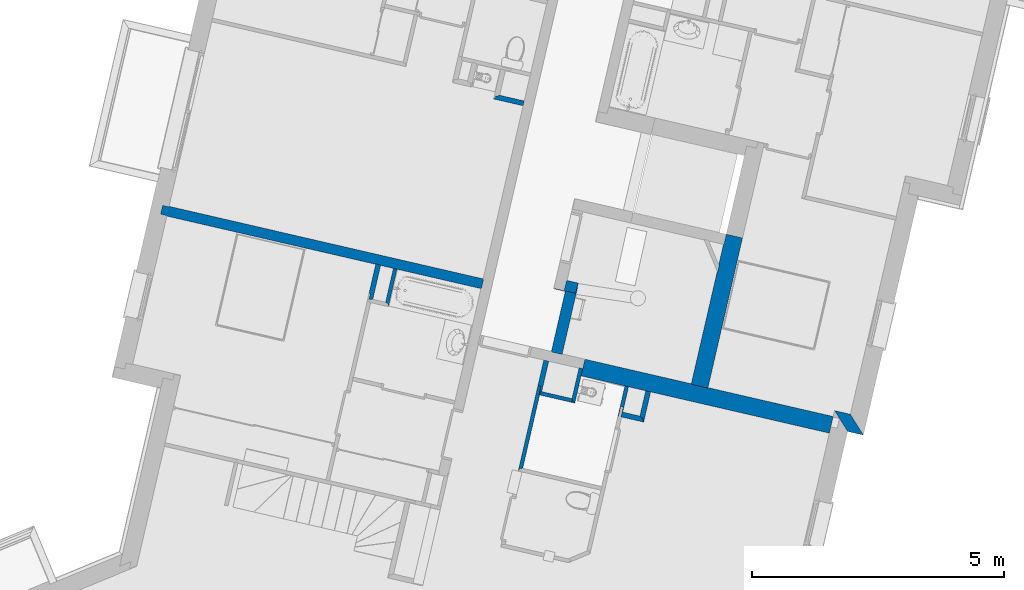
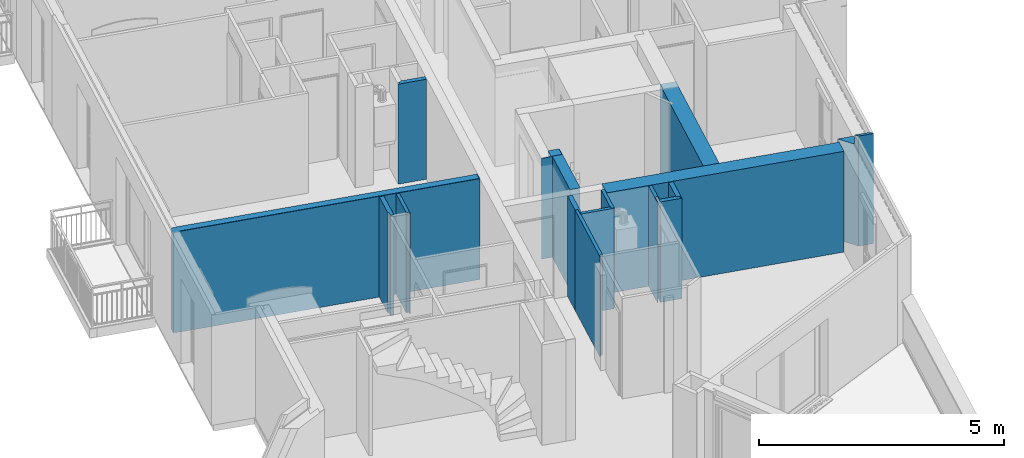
# One storey, part 25 of 62: 16 walls.
"""IFC2X3 building model written with IfcOpenShell, lengths in metres."""

from ifc_helpers import new_model, entity, si_unit, converted_unit, derived_unit, money_unit, direction, frame, origin_with_axes, place, context, subcontext, project, spatial, faceted_brep, material, material_list, type_object, element, save


model = new_model("IFC2X3")

# Units and contexts
model_context = context("Model", 3, precision=1e-05, world=origin_with_axes(), true_north=direction((0.0, 1.0)))
body_context = subcontext(model_context, "Body", "Model", "MODEL_VIEW")
ifc_project = project(units=[si_unit("LENGTHUNIT", "METRE"), si_unit("AREAUNIT", "SQUARE_METRE"), si_unit("VOLUMEUNIT", "CUBIC_METRE"), converted_unit("PLANEANGLEUNIT", "DEGREE", entity("IfcPlaneAngleMeasure", 0.0174532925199), si_unit("PLANEANGLEUNIT", "RADIAN"), dimensions=[0, 0, 0, 0, 0, 0, 0]), si_unit("SOLIDANGLEUNIT", "STERADIAN"), money_unit("EUR"), converted_unit("TIMEUNIT", "Year", entity("IfcTimeMeasure", 31556926.0), si_unit("TIMEUNIT", "SECOND"), dimensions=[0, 0, 1, 0, 0, 0, 0]), si_unit("MASSUNIT", "GRAM", prefix="KILO"), si_unit("THERMODYNAMICTEMPERATUREUNIT", "DEGREE_CELSIUS"), si_unit("LUMINOUSINTENSITYUNIT", "LUMEN"), si_unit("ENERGYUNIT", "JOULE", prefix="MEGA"), derived_unit("THERMALCONDUCTANCEUNIT", [(si_unit("POWERUNIT", "WATT"), 1), (si_unit("LENGTHUNIT", "METRE"), -1), (si_unit("THERMODYNAMICTEMPERATUREUNIT", "KELVIN"), -1)]), derived_unit("SPECIFICHEATCAPACITYUNIT", [(si_unit("ENERGYUNIT", "JOULE"), 1), (si_unit("MASSUNIT", "GRAM", prefix="KILO"), -1), (si_unit("THERMODYNAMICTEMPERATUREUNIT", "KELVIN"), -1)]), derived_unit("MASSDENSITYUNIT", [(si_unit("MASSUNIT", "GRAM", prefix="KILO"), 1), (si_unit("VOLUMEUNIT", "CUBIC_METRE"), -1)])], contexts=[model_context])

# Site, building, storey
site_placement = place(None, origin_with_axes())
site = spatial("IfcSite", under=ifc_project, at=site_placement, Name="Site", CompositionType="ELEMENT")
building_placement = place(site_placement, origin_with_axes())
building = spatial("IfcBuilding", under=site, at=building_placement, Name="Bâtiment", CompositionType="ELEMENT")
storey_placement = place(building_placement, frame((0.0, 0.0, 8.16), z_axis=(0.0, 0.0, 1.0), x_axis=(1.0, 0.0, 0.0)))
storey = spatial("IfcBuildingStorey", under=building, at=storey_placement, Name="R+3", CompositionType="ELEMENT", Elevation=8.16)

# Walls
ifc_material_1 = material(Name="Finition int - Plaque de plâtre")
ifc_material_2 = material(Name="Isolation - Laine de roche")
ifc_material_list_1 = material_list([ifc_material_1, ifc_material_2, ifc_material_1])
wall_type_1 = type_object("IfcWallType", Name="3 - Cloison 72mm Placostil 74", PredefinedType="USERDEFINED")
wall_1_placement = place(storey_placement, frame((-11.5534939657, -9.58924458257, 0.0), z_axis=(0.0, 0.0, 1.0), x_axis=(-0.224876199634, -0.974387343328, 0.0)))
element("IfcWall", 1, at=wall_1_placement, inside=storey, type_object=wall_type_1, material=ifc_material_list_1, Name="Cloison Placostil 72/48", ObjectType="PARTITIONING", context=body_context, shape_type="Brep", body=[
    faceted_brep([(1.49496351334, 0.074, 0.0), (0.0, 0.074, 0.0), (0.0, 0.074, 2.5), (1.49496351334, 0.074, 2.5), (1.49496351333, 0.061, 0.0), (0.0, 0.061, 0.0), (0.0, 0.061, 2.5), (1.49496351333, 0.061, 2.5)], [[[0, 1, 2, 3]], [[4, 5, 1, 0]], [[5, 6, 2, 1]], [[3, 2, 6, 7]], [[3, 7, 4, 0]], [[7, 6, 5, 4]]]),
    faceted_brep([(1.50796351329, 0.013, 0.0), (-0.174000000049, 0.013, 0.0), (-0.174000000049, 0.061, 0.0), (1.50796351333, 0.061, 0.0), (1.50796351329, 0.013, 2.5), (-0.174000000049, 0.013, 2.5), (-0.174000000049, 0.061, 2.5), (1.50796351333, 0.061, 2.5)], [[[0, 1, 2, 3]], [[4, 5, 1, 0]], [[1, 5, 6, 2]], [[3, 2, 6, 7]], [[7, 4, 0, 3]], [[7, 6, 5, 4]]]),
    faceted_brep([(1.55596351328, 0.0, 0.0), (-0.174000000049, 0.0, 0.0), (-0.174000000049, 0.013, 0.0), (1.55596351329, 0.013, 0.0), (1.55596351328, 0.0, 2.5), (-0.174000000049, 0.0, 2.5), (-0.174000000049, 0.013, 2.5), (1.55596351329, 0.013, 2.5)], [[[0, 1, 2, 3]], [[4, 5, 1, 0]], [[1, 5, 6, 2]], [[3, 2, 6, 7]], [[7, 4, 0, 3]], [[7, 6, 5, 4]]]),
])
ifc_material_3 = material(Name="Finition int - Enduit plâtre")
ifc_material_4 = material(Name="Béton")
ifc_material_list_2 = material_list([ifc_material_3, ifc_material_4, ifc_material_3])
wall_type_2 = type_object("IfcWallType", Name="2 - Murs Béton 18 + Enduit 2 Faces 200", PredefinedType="USERDEFINED")
wall_2_placement = place(storey_placement, frame((-19.2167882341, -5.96817026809, 0.0), z_axis=(0.0, 0.0, 1.0), x_axis=(0.97438734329, -0.224876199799, 0.0)))
element("IfcWall", 2, at=wall_2_placement, inside=storey, type_object=wall_type_2, material=ifc_material_list_2, Name="M_Ext-008", ObjectType="SOLIDWALL", context=body_context, shape_type="Brep", body=[
    faceted_brep([(0.344999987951, 0.19, 2.49), (6.7453103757, 0.19, 2.49), (6.7453103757, 0.19, 0.0), (0.344999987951, 0.19, 0.0), (6.7453103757, 0.18, 2.49), (0.344999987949, 0.18, 2.49), (6.7453103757, 0.18, 0.0), (0.344999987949, 0.18, 0.0)], [[[0, 1, 2, 3]], [[4, 1, 0, 5]], [[1, 4, 6, 2]], [[6, 7, 3, 2]], [[5, 0, 3, 7]], [[4, 5, 7, 6]]]),
    faceted_brep([(0.214999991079, 0.18, 2.49), (6.7453103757, 0.18, 2.49), (6.74531037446, 0.18, 2.50999999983), (6.7553103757, 0.18, 2.51), (6.7553103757, 0.18, 0.0), (0.214999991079, 0.18, 0.0), (0.214999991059, -1.22377260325e-07, 2.49), (6.74531037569, 6.00846323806e-08, 2.49), (6.74531037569, 6.00846323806e-08, 2.50999999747), (6.75531037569, 0.0, 2.51), (6.75531037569, 0.0, 0.0), (0.214999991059, 0.0, 0.0)], [[[0, 1, 2, 3, 4, 5]], [[1, 0, 6, 7]], [[8, 2, 1, 7]], [[2, 8, 9, 3]], [[10, 4, 3, 9]], [[10, 11, 5, 4]], [[6, 0, 5, 11]], [[7, 6, 11, 10, 9, 8]]]),
    faceted_brep([(4.60131037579, 0.0, 0.0), (0.34499998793, 0.0, 0.0), (0.34499998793, 0.0, 2.51), (6.74531037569, 0.0, 2.51), (6.74531037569, 0.0, 0.0), (4.70131037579, 0.0, 0.0), (4.70131037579, 0.0, 2.5), (4.60131037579, 0.0, 2.5), (4.60131037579, -0.01, 0.0), (0.344999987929, -0.01, 0.0), (0.344999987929, -0.01, 2.51), (6.74531037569, -0.01, 2.51), (6.74531037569, -0.01, 0.0), (4.70131037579, -0.01, 0.0), (4.70131037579, -0.01, 2.5), (4.60131037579, -0.01, 2.5)], [[[0, 1, 2, 3, 4, 5, 6, 7]], [[8, 9, 1, 0]], [[9, 10, 2, 1]], [[3, 2, 10, 11]], [[12, 4, 3, 11]], [[12, 13, 5, 4]], [[14, 6, 5, 13]], [[7, 6, 14, 15]], [[8, 0, 7, 15]], [[11, 10, 9, 8, 15, 14, 13, 12]]]),
])
wall_type_3 = type_object("IfcWallType", Name="2 - Murs Béton 20 + Enduit 2 Faces  220", PredefinedType="USERDEFINED")
wall_3_placement = place(storey_placement, frame((-10.9531693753, -7.53877855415, 0.0), z_axis=(0.0, 0.0, 1.0), x_axis=(-0.22487619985, -0.974387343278, 0.0)))
element("IfcWall", 3, at=wall_3_placement, inside=storey, type_object=wall_type_3, material=ifc_material_list_2, Name="M_Ext-009", ObjectType="SOLIDWALL", context=body_context, shape_type="Brep", body=[
    faceted_brep([(1.23894685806, 0.205, 0.0), (1.23894685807, 0.195, 0.0), (-0.195, 0.195, 0.0), (-0.195, 0.205, 0.0), (1.23894685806, 0.205, 2.51), (1.23894685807, 0.195, 2.51), (-0.195, 0.195, 2.51), (-0.195, 0.205, 2.51)], [[[0, 1, 2, 3]], [[1, 0, 4, 5]], [[1, 5, 6, 2]], [[7, 3, 2, 6]], [[4, 0, 3, 7]], [[5, 4, 7, 6]]]),
    faceted_brep([(1.24894685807, 0.195, 0.0), (1.24894685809, -0.005, 0.0), (0.005, -0.005, 0.0), (0.005, 0.195, 0.0), (1.24894685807, 0.195, 2.51), (1.24894685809, -0.005, 2.51), (0.005, -0.005, 2.51), (0.005, 0.195, 2.51)], [[[0, 1, 2, 3]], [[1, 0, 4, 5]], [[1, 5, 6, 2]], [[7, 3, 2, 6]], [[4, 0, 3, 7]], [[5, 4, 7, 6]]]),
    faceted_brep([(1.23894685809, -0.005, 0.0), (1.23894685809, -0.015, 0.0), (0.015, -0.015, 0.0), (0.015, -0.005, 0.0), (1.23894685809, -0.005, 2.51), (1.23894685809, -0.015, 2.51), (0.015, -0.015, 2.51), (0.015, -0.005, 2.51)], [[[0, 1, 2, 3]], [[1, 0, 4, 5]], [[1, 5, 6, 2]], [[7, 3, 2, 6]], [[4, 0, 3, 7]], [[5, 4, 7, 6]]]),
])
wall_4_placement = place(storey_placement, frame((-11.1820019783, -7.48596690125, 0.0), z_axis=(0.0, 0.0, 1.0), x_axis=(0.974387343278, -0.22487619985, 0.0)))
element("IfcWall", 4, at=wall_4_placement, inside=storey, type_object=wall_type_3, material=ifc_material_list_2, Name="M_Ext-009", ObjectType="SOLIDWALL", context=body_context, shape_type="Brep", body=[
    faceted_brep([(0.439847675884, 0.205, 0.0), (0.439847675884, 0.195, 0.0), (0.205000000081, 0.195, 0.0), (0.205000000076, 0.205, 0.0), (0.439847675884, 0.205, 2.51), (0.439847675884, 0.195, 2.51), (0.205000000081, 0.195, 2.51), (0.205000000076, 0.205, 2.51)], [[[0, 1, 2, 3]], [[1, 0, 4, 5]], [[1, 5, 6, 2]], [[7, 3, 2, 6]], [[4, 0, 3, 7]], [[5, 4, 7, 6]]]),
    faceted_brep([(0.429847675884, 0.195, 0.0), (0.429847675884, -0.005, 0.0), (0.19500000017, -0.005, 0.0), (0.195000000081, 0.195, 0.0), (0.429847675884, 0.195, 2.51), (0.429847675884, -0.005, 2.51), (0.19500000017, -0.005, 2.51), (0.195000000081, 0.195, 2.51)], [[[0, 1, 2, 3]], [[1, 0, 4, 5]], [[1, 5, 6, 2]], [[7, 3, 2, 6]], [[4, 0, 3, 7]], [[5, 4, 7, 6]]]),
    faceted_brep([(0.229847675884, -0.005, 0.0), (0.229847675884, -0.015, 0.0), (-0.0049999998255, -0.015, 0.0), (-0.00499999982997, -0.005, 0.0), (0.229847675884, -0.005, 2.51), (0.229847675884, -0.015, 2.51), (-0.0049999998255, -0.015, 2.51), (-0.00499999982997, -0.005, 2.51)], [[[0, 1, 2, 3]], [[1, 0, 4, 5]], [[1, 5, 6, 2]], [[7, 3, 2, 6]], [[4, 0, 3, 7]], [[5, 4, 7, 6]]]),
])
wall_type_4 = type_object("IfcWallType", Name="3 - Cloison Gaine Technique 72mm 74", PredefinedType="USERDEFINED")
wall_5_placement = place(storey_placement, frame((-10.7830923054, -9.76704348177, 0.0), z_axis=(0.0, 0.0, 1.0), x_axis=(-0.974387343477, 0.224876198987, 0.0)))
element("IfcWall", 5, at=wall_5_placement, inside=storey, type_object=wall_type_4, material=ifc_material_list_1, Name="Cloison Placostil 72/48", ObjectType="PARTITIONING", context=body_context, shape_type="Brep", body=[
    faceted_brep([(0.0129999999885, -0.013, 0.0), (0.72965236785, -0.013, 0.0), (0.72965236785, -0.013, 2.5), (0.0129999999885, -0.013, 2.5), (0.013, 0.0, 0.0), (0.729652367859, 0.0, 0.0), (0.729652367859, 0.0, 2.5), (0.013, 0.0, 2.5)], [[[0, 1, 2, 3]], [[4, 5, 1, 0]], [[5, 6, 2, 1]], [[3, 2, 6, 7]], [[4, 0, 3, 7]], [[7, 6, 5, 4]]]),
    faceted_brep([(0.060999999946, -0.061, 2.5), (0.716652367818, -0.061, 2.5), (0.71665236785, -0.013, 2.5), (0.0609999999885, -0.013, 2.5), (0.060999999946, -0.061, 0.0), (0.716652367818, -0.061, 0.0), (0.71665236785, -0.013, 0.0), (0.0609999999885, -0.013, 0.0)], [[[0, 1, 2, 3]], [[4, 5, 1, 0]], [[6, 2, 1, 5]], [[3, 2, 6, 7]], [[7, 4, 0, 3]], [[7, 6, 5, 4]]]),
    faceted_brep([(0.69065236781, -0.074, 2.5), (0.690652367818, -0.061, 2.5), (0.073999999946, -0.061, 2.5), (0.0739999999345, -0.074, 2.5), (0.69065236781, -0.074, 0.0), (0.690652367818, -0.061, 0.0), (0.073999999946, -0.061, 0.0), (0.0739999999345, -0.074, 0.0)], [[[0, 1, 2, 3]], [[1, 0, 4, 5]], [[1, 5, 6, 2]], [[7, 3, 2, 6]], [[4, 0, 3, 7]], [[5, 4, 7, 6]]]),
])
wall_6_placement = place(storey_placement, frame((-10.5843017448, -8.90568507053, 0.0), z_axis=(0.0, 0.0, 1.0), x_axis=(-0.224876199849, -0.974387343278, 0.0)))
element("IfcWall", 6, at=wall_6_placement, inside=storey, type_object=wall_type_4, material=ifc_material_list_1, Name="Cloison Placostil 72/48", ObjectType="PARTITIONING", context=body_context, shape_type="Brep", body=[
    faceted_brep([(0.88399999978, 0.0, 0.0), (0.179999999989, 0.0, 0.0), (0.179999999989, 0.0, 2.5), (0.88399999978, 0.0, 2.5), (0.883999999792, -0.013, 0.0), (0.17999999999, -0.013, 0.0), (0.17999999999, -0.013, 2.5), (0.883999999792, -0.013, 2.5)], [[[0, 1, 2, 3]], [[4, 5, 1, 0]], [[5, 6, 2, 1]], [[3, 2, 6, 7]], [[4, 0, 3, 7]], [[7, 6, 5, 4]]]),
    faceted_brep([(0.870999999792, -0.013, 0.0), (0.17999999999, -0.013, 0.0), (0.17999999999, -0.013, 2.5), (0.870999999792, -0.013, 2.5), (0.870999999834, -0.061, 0.0), (0.179999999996, -0.061, 0.0), (0.179999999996, -0.061, 2.5), (0.870999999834, -0.061, 2.5)], [[[0, 1, 2, 3]], [[4, 5, 1, 0]], [[5, 6, 2, 1]], [[3, 2, 6, 7]], [[4, 0, 3, 7]], [[7, 6, 5, 4]]]),
    faceted_brep([(0.822999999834, -0.061, 0.0), (0.179999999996, -0.061, 0.0), (0.179999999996, -0.061, 2.5), (0.822999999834, -0.061, 2.5), (0.822999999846, -0.074, 0.0), (0.179999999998, -0.074, 0.0), (0.179999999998, -0.074, 2.5), (0.822999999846, -0.074, 2.5)], [[[0, 1, 2, 3]], [[4, 5, 1, 0]], [[5, 6, 2, 1]], [[3, 2, 6, 7]], [[4, 0, 3, 7]], [[7, 6, 5, 4]]]),
])
wall_7_placement = place(storey_placement, frame((-9.71496521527, -9.44499122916, 0.0), z_axis=(0.0, 0.0, 1.0), x_axis=(-0.224876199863, -0.974387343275, 0.0)))
element("IfcWall", 7, at=wall_7_placement, inside=storey, type_object=wall_type_4, material=ifc_material_list_1, Name="Cloison Placostil 72/48", ObjectType="PARTITIONING", context=body_context, shape_type="Brep", body=[
    faceted_brep([(0.0, -0.013, 2.5), (0.528000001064, -0.013, 2.5), (0.528000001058, 0.0, 2.5), (0.0, 0.0, 2.5), (0.0, -0.013, 0.0), (0.528000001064, -0.013, 0.0), (0.528000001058, 0.0, 0.0), (0.0, 0.0, 0.0)], [[[0, 1, 2, 3]], [[4, 5, 1, 0]], [[6, 2, 1, 5]], [[3, 2, 6, 7]], [[7, 4, 0, 3]], [[7, 6, 5, 4]]]),
    faceted_brep([(0.0, -0.061, 2.5), (0.415000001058, -0.061, 2.5), (0.415000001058, -0.013, 2.5), (0.0, -0.013, 2.5), (0.0, -0.061, 0.0), (0.415000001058, -0.061, 0.0), (0.415000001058, -0.013, 0.0), (0.0, -0.013, 0.0)], [[[0, 1, 2, 3]], [[4, 5, 1, 0]], [[5, 6, 2, 1]], [[3, 2, 6, 7]], [[7, 4, 0, 3]], [[7, 6, 5, 4]]]),
    faceted_brep([(0.0, -0.074, 2.5), (0.602000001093, -0.074, 2.5), (0.602000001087, -0.061, 2.5), (0.0, -0.061, 2.5), (0.0, -0.074, 0.0), (0.602000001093, -0.074, 0.0), (0.602000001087, -0.061, 0.0), (0.0, -0.061, 0.0)], [[[0, 1, 2, 3]], [[4, 5, 1, 0]], [[6, 2, 1, 5]], [[3, 2, 6, 7]], [[7, 4, 0, 3]], [[7, 6, 5, 4]]]),
])
wall_8_placement = place(storey_placement, frame((-14.4842748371, -7.85369314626, 0.0), z_axis=(0.0, 0.0, 1.0), x_axis=(0.224876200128, 0.974387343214, 0.0)))
element("IfcWall", 8, at=wall_8_placement, inside=storey, type_object=wall_type_4, material=ifc_material_list_1, Name="Cloison Placostil 72/48", ObjectType="PARTITIONING", context=body_context, shape_type="Brep", body=[
    faceted_brep([(0.0739999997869, 0.074, 0.0), (0.763000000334, 0.074, 0.0), (0.763000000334, 0.061, 0.0), (0.0739999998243, 0.061, 0.0), (0.0739999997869, 0.074, 2.5), (0.763000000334, 0.074, 2.5), (0.763000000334, 0.061, 2.5), (0.0739999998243, 0.061, 2.5)], [[[0, 1, 2, 3]], [[4, 5, 1, 0]], [[2, 1, 5, 6]], [[3, 2, 6, 7]], [[4, 0, 3, 7]], [[7, 6, 5, 4]]]),
    faceted_brep([(0.0609999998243, 0.061, 0.0), (0.763000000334, 0.061, 0.0), (0.763000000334, 0.013, 0.0), (0.0609999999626, 0.013, 0.0), (0.0609999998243, 0.061, 2.5), (0.763000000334, 0.061, 2.5), (0.763000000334, 0.013, 2.5), (0.0609999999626, 0.013, 2.5)], [[[0, 1, 2, 3]], [[4, 5, 1, 0]], [[2, 1, 5, 6]], [[3, 2, 6, 7]], [[4, 0, 3, 7]], [[7, 6, 5, 4]]]),
    faceted_brep([(0.0129999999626, 0.013, 0.0), (0.763000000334, 0.013, 0.0), (0.763000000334, 0.0, 0.0), (0.013, 0.0, 0.0), (0.0129999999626, 0.013, 2.5), (0.763000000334, 0.013, 2.5), (0.763000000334, 0.0, 2.5), (0.013, 0.0, 2.5)], [[[0, 1, 2, 3]], [[4, 5, 1, 0]], [[2, 1, 5, 6]], [[3, 2, 6, 7]], [[4, 0, 3, 7]], [[7, 6, 5, 4]]]),
])
ifc_material_list_3 = material_list([ifc_material_1, ifc_material_1, ifc_material_2, ifc_material_1, ifc_material_1])
wall_type_5 = type_object("IfcWallType", Name="3 - Cloison Gaine Technique 98mm 100", PredefinedType="USERDEFINED")
wall_9_placement = place(storey_placement, frame((-14.7333296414, -7.00289545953, 0.0), z_axis=(0.0, 0.0, 1.0), x_axis=(-0.22487619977, -0.974387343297, 0.0)))
element("IfcWall", 9, at=wall_9_placement, inside=storey, type_object=wall_type_5, material=ifc_material_list_3, Name="Cloison 98 isolée", ObjectType="PARTITIONING", context=body_context, shape_type="Brep", body=[
    faceted_brep([(0.699000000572, 0.1, 0.0), (0.699000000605, 0.087, 0.0), (0.0, 0.087, 0.0), (0.0, 0.1, 0.0), (0.699000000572, 0.1, 2.5), (0.699000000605, 0.087, 2.5), (0.0, 0.087, 2.5), (0.0, 0.1, 2.5)], [[[0, 1, 2, 3]], [[1, 0, 4, 5]], [[1, 5, 6, 2]], [[7, 3, 2, 6]], [[4, 0, 3, 7]], [[5, 4, 7, 6]]]),
    faceted_brep([(0.712000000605, 0.087, 0.0), (0.712000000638, 0.074, 0.0), (0.0, 0.074, 0.0), (0.0, 0.087, 0.0), (0.712000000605, 0.087, 2.5), (0.712000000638, 0.074, 2.5), (0.0, 0.074, 2.5), (0.0, 0.087, 2.5)], [[[0, 1, 2, 3]], [[1, 0, 4, 5]], [[1, 5, 6, 2]], [[7, 3, 2, 6]], [[4, 0, 3, 7]], [[5, 4, 7, 6]]]),
    faceted_brep([(0.0, 0.074, 0.0), (0.712000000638, 0.074, 0.0), (0.712000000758, 0.026, 0.0), (0.0, 0.026, 0.0), (0.0, 0.074, 2.5), (0.712000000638, 0.074, 2.5), (0.712000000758, 0.026, 2.5), (0.0, 0.026, 2.5)], [[[0, 1, 2, 3]], [[4, 5, 1, 0]], [[6, 2, 1, 5]], [[3, 2, 6, 7]], [[7, 4, 0, 3]], [[7, 6, 5, 4]]]),
    faceted_brep([(0.0, 0.013, 2.5), (0.599000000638, 0.013, 2.5), (0.599000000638, 0.026, 2.5), (0.0, 0.026, 2.5), (0.0, 0.013, 0.0), (0.599000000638, 0.013, 0.0), (0.599000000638, 0.026, 0.0), (0.0, 0.026, 0.0)], [[[0, 1, 2, 3]], [[4, 5, 1, 0]], [[5, 6, 2, 1]], [[3, 2, 6, 7]], [[0, 3, 7, 4]], [[7, 6, 5, 4]]]),
    faceted_brep([(0.0, 0.0, 2.5), (0.599000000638, 0.0, 2.5), (0.599000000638, 0.013, 2.5), (0.0, 0.013, 2.5), (0.0, 0.0, 0.0), (0.599000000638, 0.0, 0.0), (0.599000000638, 0.013, 0.0), (0.0, 0.013, 0.0)], [[[0, 1, 2, 3]], [[4, 5, 1, 0]], [[5, 6, 2, 1]], [[3, 2, 6, 7]], [[0, 3, 7, 4]], [[7, 6, 5, 4]]]),
])
wall_10_placement = place(storey_placement, frame((-9.41478977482, -10.1454337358, 0.0), z_axis=(0.0, 0.0, 1.0), x_axis=(-0.974387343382, 0.224876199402, 0.0)))
element("IfcWall", 10, at=wall_10_placement, inside=storey, type_object=wall_type_5, material=ifc_material_list_3, Name="Cloison 98 isolée", ObjectType="PARTITIONING", context=body_context, shape_type="Brep", body=[
    faceted_brep([(0.523999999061, 0.0, 2.5), (0.510999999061, 0.0, 2.5), (0.510999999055, -0.013, 2.5), (0.523999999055, -0.013, 2.5), (0.523999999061, 0.0, 0.0), (0.510999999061, 0.0, 0.0), (0.510999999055, -0.013, 0.0), (0.523999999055, -0.013, 0.0)], [[[0, 1, 2, 3]], [[4, 5, 1, 0]], [[5, 6, 2, 1]], [[3, 2, 6, 7]], [[4, 0, 3, 7]], [[7, 6, 5, 4]]]),
    faceted_brep([(0.0, -0.013, 0.0), (0.462999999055, -0.013, 0.0), (0.462999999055, -0.013, 2.5), (0.0, -0.013, 2.5), (0.0, 0.0, 0.0), (0.462999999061, 0.0, 0.0), (0.462999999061, 0.0, 2.5), (0.0, 0.0, 2.5)], [[[0, 1, 2, 3]], [[4, 5, 1, 0]], [[5, 6, 2, 1]], [[3, 2, 6, 7]], [[4, 0, 3, 7]], [[7, 6, 5, 4]]]),
    faceted_brep([(0.0129999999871, -0.026, 0.0), (0.462999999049, -0.026, 0.0), (0.462999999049, -0.026, 2.5), (0.0129999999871, -0.026, 2.5), (0.0129999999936, -0.013, 0.0), (0.462999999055, -0.013, 0.0), (0.462999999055, -0.013, 2.5), (0.0129999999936, -0.013, 2.5)], [[[0, 1, 2, 3]], [[4, 5, 1, 0]], [[5, 6, 2, 1]], [[3, 2, 6, 7]], [[4, 0, 3, 7]], [[7, 6, 5, 4]]]),
    faceted_brep([(0.0259999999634, -0.074, 2.5), (0.462999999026, -0.074, 2.5), (0.462999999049, -0.026, 2.5), (0.0259999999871, -0.026, 2.5), (0.0259999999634, -0.074, 0.0), (0.462999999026, -0.074, 0.0), (0.462999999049, -0.026, 0.0), (0.0259999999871, -0.026, 0.0)], [[[0, 1, 2, 3]], [[4, 5, 1, 0]], [[6, 2, 1, 5]], [[3, 2, 6, 7]], [[7, 4, 0, 3]], [[7, 6, 5, 4]]]),
    faceted_brep([(0.073999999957, -0.087, 2.5), (0.46299999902, -0.087, 2.5), (0.462999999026, -0.074, 2.5), (0.0739999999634, -0.074, 2.5), (0.073999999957, -0.087, 0.0), (0.46299999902, -0.087, 0.0), (0.462999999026, -0.074, 0.0), (0.0739999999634, -0.074, 0.0)], [[[0, 1, 2, 3]], [[4, 5, 1, 0]], [[6, 2, 1, 5]], [[3, 2, 6, 7]], [[7, 4, 0, 3]], [[7, 6, 5, 4]]]),
    faceted_brep([(0.0869999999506, -0.1, 2.5), (0.449999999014, -0.1, 2.5), (0.44999999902, -0.087, 2.5), (0.086999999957, -0.087, 2.5), (0.0869999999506, -0.1, 0.0), (0.449999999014, -0.1, 0.0), (0.44999999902, -0.087, 0.0), (0.086999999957, -0.087, 0.0)], [[[0, 1, 2, 3]], [[4, 5, 1, 0]], [[6, 2, 1, 5]], [[3, 2, 6, 7]], [[7, 4, 0, 3]], [[7, 6, 5, 4]]]),
])
wall_11_placement = place(storey_placement, frame((-11.3974298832, -8.91301976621, 0.0), z_axis=(0.0, 0.0, 1.0), x_axis=(-0.224876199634, -0.974387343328, 0.0)))
element("IfcWall", 11, at=wall_11_placement, inside=storey, type_object=wall_type_5, material=ifc_material_list_3, Name="Cloison 98 isolée", ObjectType="PARTITIONING", context=body_context, shape_type="Brep", body=[
    faceted_brep([(0.0, 0.1, 0.0), (0.633000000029, 0.1, 0.0), (0.633000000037, 0.087, 0.0), (0.0, 0.087, 0.0), (0.0, 0.1, 2.5), (0.633000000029, 0.1, 2.5), (0.633000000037, 0.087, 2.5), (0.0, 0.087, 2.5)], [[[0, 1, 2, 3]], [[4, 5, 1, 0]], [[6, 2, 1, 5]], [[3, 2, 6, 7]], [[7, 4, 0, 3]], [[7, 6, 5, 4]]]),
    faceted_brep([(0.0, 0.087, 0.0), (0.633000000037, 0.087, 0.0), (0.633000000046, 0.074, 0.0), (0.0, 0.074, 0.0), (0.0, 0.087, 2.5), (0.633000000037, 0.087, 2.5), (0.633000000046, 0.074, 2.5), (0.0, 0.074, 2.5)], [[[0, 1, 2, 3]], [[4, 5, 1, 0]], [[6, 2, 1, 5]], [[3, 2, 6, 7]], [[7, 4, 0, 3]], [[7, 6, 5, 4]]]),
    faceted_brep([(0.520000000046, 0.026, 2.5), (0.520000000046, 0.061, 2.5), (0.681000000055, 0.061, 2.5), (0.681000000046, 0.074, 2.5), (0.0, 0.074, 2.5), (0.0, 0.026, 2.5), (0.520000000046, 0.061, 0.0), (0.520000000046, 0.026, 0.0), (0.681000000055, 0.061, 0.0), (0.681000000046, 0.074, 0.0), (0.0, 0.074, 0.0), (0.0, 0.026, 0.0)], [[[0, 1, 2, 3, 4, 5]], [[6, 1, 0, 7]], [[8, 2, 1, 6]], [[3, 2, 8, 9]], [[4, 3, 9, 10]], [[5, 4, 10, 11]], [[11, 7, 0, 5]], [[8, 6, 7, 11, 10, 9]]]),
    faceted_brep([(0.0, 0.013, 2.5), (0.520000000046, 0.013, 2.5), (0.520000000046, 0.026, 2.5), (0.0, 0.026, 2.5), (0.0, 0.013, 0.0), (0.520000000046, 0.013, 0.0), (0.520000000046, 0.026, 0.0), (0.0, 0.026, 0.0)], [[[0, 1, 2, 3]], [[4, 5, 1, 0]], [[5, 6, 2, 1]], [[3, 2, 6, 7]], [[0, 3, 7, 4]], [[7, 6, 5, 4]]]),
    faceted_brep([(0.0, 0.0, 2.5), (0.520000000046, 0.0, 2.5), (0.520000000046, 0.013, 2.5), (0.0, 0.013, 2.5), (0.0, 0.0, 0.0), (0.520000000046, 0.0, 0.0), (0.520000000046, 0.013, 0.0), (0.0, 0.013, 0.0)], [[[0, 1, 2, 3]], [[4, 5, 1, 0]], [[5, 6, 2, 1]], [[3, 2, 6, 7]], [[0, 3, 7, 4]], [[7, 6, 5, 4]]]),
])
wall_12_placement = place(storey_placement, frame((-9.41478977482, -10.1454337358, 0.0), z_axis=(0.0, 0.0, 1.0), x_axis=(0.224876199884, 0.974387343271, 0.0)))
element("IfcWall", 12, at=wall_12_placement, inside=storey, type_object=wall_type_5, material=ifc_material_list_3, Name="Cloison 98 isolée", ObjectType="PARTITIONING", context=body_context, shape_type="Brep", body=[
    faceted_brep([(0.0999999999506, 0.1, 0.0), (0.615000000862, 0.1, 0.0), (0.615000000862, 0.087, 0.0), (0.099999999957, 0.087, 0.0), (0.0999999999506, 0.1, 2.5), (0.615000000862, 0.1, 2.5), (0.615000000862, 0.087, 2.5), (0.099999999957, 0.087, 2.5)], [[[0, 1, 2, 3]], [[4, 5, 1, 0]], [[2, 1, 5, 6]], [[3, 2, 6, 7]], [[4, 0, 3, 7]], [[7, 6, 5, 4]]]),
    faceted_brep([(0.086999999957, 0.087, 0.0), (0.615000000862, 0.087, 0.0), (0.615000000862, 0.074, 0.0), (0.0869999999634, 0.074, 0.0), (0.086999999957, 0.087, 2.5), (0.615000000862, 0.087, 2.5), (0.615000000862, 0.074, 2.5), (0.0869999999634, 0.074, 2.5)], [[[0, 1, 2, 3]], [[4, 5, 1, 0]], [[2, 1, 5, 6]], [[3, 2, 6, 7]], [[4, 0, 3, 7]], [[7, 6, 5, 4]]]),
    faceted_brep([(0.0739999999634, 0.074, 0.0), (0.615000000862, 0.074, 0.0), (0.615000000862, 0.026, 0.0), (0.0739999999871, 0.026, 0.0), (0.0739999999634, 0.074, 2.5), (0.615000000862, 0.074, 2.5), (0.615000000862, 0.026, 2.5), (0.0739999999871, 0.026, 2.5)], [[[0, 1, 2, 3]], [[4, 5, 1, 0]], [[2, 1, 5, 6]], [[3, 2, 6, 7]], [[4, 0, 3, 7]], [[7, 6, 5, 4]]]),
    faceted_brep([(0.0259999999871, 0.026, 0.0), (0.615000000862, 0.026, 0.0), (0.615000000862, 0.013, 0.0), (0.0259999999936, 0.013, 0.0), (0.0259999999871, 0.026, 2.5), (0.615000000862, 0.026, 2.5), (0.615000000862, 0.013, 2.5), (0.0259999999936, 0.013, 2.5)], [[[0, 1, 2, 3]], [[4, 5, 1, 0]], [[2, 1, 5, 6]], [[3, 2, 6, 7]], [[4, 0, 3, 7]], [[7, 6, 5, 4]]]),
    faceted_brep([(0.0129999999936, 0.013, 0.0), (0.615000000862, 0.013, 0.0), (0.615000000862, 0.0, 0.0), (0.013, 0.0, 0.0), (0.0129999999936, 0.013, 2.5), (0.615000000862, 0.013, 2.5), (0.615000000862, 0.0, 2.5), (0.013, 0.0, 2.5)], [[[0, 1, 2, 3]], [[4, 5, 1, 0]], [[2, 1, 5, 6]], [[3, 2, 6, 7]], [[4, 0, 3, 7]], [[7, 6, 5, 4]]]),
])
wall_13_placement = place(storey_placement, frame((-11.808762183, -3.86489545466, 0.0), z_axis=(0.0, 0.0, 1.0), x_axis=(-0.974387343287, 0.224876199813, 0.0)))
element("IfcWall", 13, at=wall_13_placement, inside=storey, type_object=wall_type_5, material=ifc_material_list_3, Name="Cloison 98 isolée", ObjectType="PARTITIONING", context=body_context, shape_type="Brep", body=[
    faceted_brep([(0.599999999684, -0.013, 2.49), (0.0, -0.013, 2.49), (0.0, -0.013, 0.0), (0.599999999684, -0.013, 0.0), (0.0, 0.0, 2.49), (0.599999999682, 0.0, 2.49), (0.0, 0.0, 0.0), (0.599999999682, 0.0, 0.0)], [[[0, 1, 2, 3]], [[4, 1, 0, 5]], [[1, 4, 6, 2]], [[7, 3, 2, 6]], [[5, 0, 3, 7]], [[4, 5, 7, 6]]]),
    faceted_brep([(0.586999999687, -0.026, 2.49), (0.0, -0.026, 2.49), (0.0, -0.026, 0.0), (0.586999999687, -0.026, 0.0), (0.0, -0.013, 2.49), (0.586999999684, -0.013, 2.49), (0.0, -0.013, 0.0), (0.586999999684, -0.013, 0.0)], [[[0, 1, 2, 3]], [[4, 1, 0, 5]], [[1, 4, 6, 2]], [[7, 3, 2, 6]], [[5, 0, 3, 7]], [[4, 5, 7, 6]]]),
    faceted_brep([(0.573999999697, -0.074, 2.49), (0.0, -0.074, 2.49), (0.0, -0.074, 0.0), (0.573999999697, -0.074, 0.0), (0.0, -0.026, 2.49), (0.573999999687, -0.026, 2.49), (0.0, -0.026, 0.0), (0.573999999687, -0.026, 0.0)], [[[0, 1, 2, 3]], [[4, 1, 0, 5]], [[1, 4, 6, 2]], [[7, 3, 2, 6]], [[5, 0, 3, 7]], [[4, 5, 7, 6]]]),
    faceted_brep([(0.5259999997, -0.087, 2.49), (0.0, -0.087, 2.49), (0.0, -0.087, 0.0), (0.5259999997, -0.087, 0.0), (0.0, -0.074, 2.49), (0.525999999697, -0.074, 2.49), (0.0, -0.074, 0.0), (0.525999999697, -0.074, 0.0)], [[[0, 1, 2, 3]], [[4, 1, 0, 5]], [[1, 4, 6, 2]], [[7, 3, 2, 6]], [[5, 0, 3, 7]], [[4, 5, 7, 6]]]),
    faceted_brep([(0.512999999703, -0.1, 2.49), (0.0, -0.1, 2.49), (0.0, -0.1, 0.0), (0.512999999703, -0.1, 0.0), (0.0, -0.087, 2.49), (0.5129999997, -0.087, 2.49), (0.0, -0.087, 0.0), (0.5129999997, -0.087, 0.0)], [[[0, 1, 2, 3]], [[4, 1, 0, 5]], [[1, 4, 6, 2]], [[7, 3, 2, 6]], [[5, 0, 3, 7]], [[4, 5, 7, 6]]]),
])
ifc_material_5 = material(Name="Isolation - Polystyrène extrudé")
ifc_material_list_4 = material_list([ifc_material_1, ifc_material_5, ifc_material_4, ifc_material_3])
wall_type_6 = type_object("IfcWallType", Name="2 - Murs Béton 20 + Isolant 120 + Enduit 1 Faces 340", PredefinedType="USERDEFINED")
wall_14_placement = place(storey_placement, frame((-7.77362621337, -6.41391833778, 0.0), z_axis=(0.0, 0.0, 1.0), x_axis=(-0.224876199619, -0.974387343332, 0.0)))
element("IfcWall", 14, at=wall_14_placement, inside=storey, type_object=wall_type_6, material=ifc_material_list_4, Name="M_Ext-008", ObjectType="SOLIDWALL", context=body_context, shape_type="Brep", body=[
    faceted_brep([(3.05999999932, 0.32, 0.0), (0.0, 0.32, 0.0), (0.0, 0.33, 0.0), (3.05999999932, 0.33, 0.0), (3.05999999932, 0.32, 2.5), (0.0, 0.32, 2.5), (0.0, 0.33, 2.5), (3.05999999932, 0.33, 2.5)], [[[0, 1, 2, 3]], [[4, 5, 1, 0]], [[1, 5, 6, 2]], [[3, 2, 6, 7]], [[7, 4, 0, 3]], [[7, 6, 5, 4]]]),
    faceted_brep([(3.0599999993, 0.2, 0.0), (0.0, 0.2, 0.0), (0.0, 0.32, 0.0), (3.05999999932, 0.32, 0.0), (3.0599999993, 0.2, 2.5), (0.0, 0.2, 2.5), (0.0, 0.32, 2.5), (3.05999999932, 0.32, 2.5)], [[[0, 1, 2, 3]], [[4, 5, 1, 0]], [[1, 5, 6, 2]], [[3, 2, 6, 7]], [[7, 4, 0, 3]], [[7, 6, 5, 4]]]),
    faceted_brep([(3.05999999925, 0.0, 0.0), (0.0, 0.0, 0.0), (0.0, 0.2, 0.0), (3.0599999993, 0.2, 0.0), (3.05999999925, 0.0, 2.5), (0.0, 0.0, 2.5), (0.0, 0.2, 2.5), (3.0599999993, 0.2, 2.5)], [[[0, 1, 2, 3]], [[4, 5, 1, 0]], [[1, 5, 6, 2]], [[3, 2, 6, 7]], [[7, 4, 0, 3]], [[7, 6, 5, 4]]]),
    faceted_brep([(0.644164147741, 0.0, 0.0), (0.199999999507, 0.0, 0.0), (0.199999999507, 0.0, 2.5), (0.644164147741, 0.0, 2.5), (0.630156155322, -0.01, 0.0), (0.199999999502, -0.01, 0.0), (0.199999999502, -0.01, 2.5), (0.630156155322, -0.01, 2.5)], [[[0, 1, 2, 3]], [[4, 5, 1, 0]], [[5, 6, 2, 1]], [[3, 2, 6, 7]], [[3, 7, 4, 0]], [[7, 6, 5, 4]]]),
    faceted_brep([(0.757518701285, -0.01, 0.0), (0.771526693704, 0.0, 0.0), (3.04999999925, 0.0, 0.0), (3.04999999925, -0.01, 0.0), (0.757518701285, -0.01, 2.5), (0.771526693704, 0.0, 2.5), (3.04999999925, 0.0, 2.5), (3.04999999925, -0.01, 2.5)], [[[0, 1, 2, 3]], [[1, 0, 4, 5]], [[1, 5, 6, 2]], [[7, 3, 2, 6]], [[4, 0, 3, 7]], [[5, 4, 7, 6]]]),
])
wall_15_placement = place(storey_placement, frame((-5.65356306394, -10.0436368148, 0.0), z_axis=(0.0, 0.0, 1.0), x_axis=(-0.974387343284, 0.224876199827, 0.0)))
element("IfcWall", 15, at=wall_15_placement, inside=storey, type_object=wall_type_6, material=ifc_material_list_4, Name="M_Ext-008", ObjectType="SOLIDWALL", context=body_context, shape_type="Brep", body=[
    faceted_brep([(5.06034762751, 0.32, 0.0), (0.0, 0.32, 0.0), (0.0, 0.33, 0.0), (5.06034762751, 0.33, 0.0), (5.06034762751, 0.32, 2.51), (0.0, 0.32, 2.51), (0.0, 0.33, 2.51), (5.06034762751, 0.33, 2.51)], [[[0, 1, 2, 3]], [[4, 5, 1, 0]], [[1, 5, 6, 2]], [[3, 2, 6, 7]], [[7, 4, 0, 3]], [[7, 6, 5, 4]]]),
    faceted_brep([(5.06034762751, 0.2, 0.0), (0.0, 0.2, 0.0), (0.0, 0.32, 0.0), (5.06034762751, 0.32, 0.0), (5.06034762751, 0.2, 2.51), (0.0, 0.2, 2.51), (0.0, 0.32, 2.51), (5.06034762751, 0.32, 2.51)], [[[0, 1, 2, 3]], [[4, 5, 1, 0]], [[1, 5, 6, 2]], [[3, 2, 6, 7]], [[7, 4, 0, 3]], [[7, 6, 5, 4]]]),
    faceted_brep([(5.06034762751, 0.0, 0.0), (0.0, 0.0, 0.0), (0.0, 0.2, 0.0), (5.06034762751, 0.2, 0.0), (5.06034762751, 0.0, 2.51), (0.0, 0.0, 2.51), (0.0, 0.2, 2.51), (5.06034762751, 0.2, 2.51)], [[[0, 1, 2, 3]], [[4, 5, 1, 0]], [[1, 5, 6, 2]], [[3, 2, 6, 7]], [[7, 4, 0, 3]], [[7, 6, 5, 4]]]),
    faceted_brep([(2.55199999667, -0.01, 0.0), (2.55199999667, -0.01, 2.5), (2.88199999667, -0.01, 2.5), (2.88199999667, -0.01, 0.0), (5.06034762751, -0.01, 0.0), (5.06034762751, -0.01, 2.51), (0.0, -0.01, 2.51), (0.0, -0.01, 0.0), (2.55199999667, 0.0, 2.5), (2.55199999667, 0.0, 0.0), (2.88199999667, 0.0, 2.5), (2.88199999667, 0.0, 0.0), (5.06034762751, 0.0, 0.0), (5.06034762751, 0.0, 2.51), (0.0, 0.0, 2.51), (0.0, 0.0, 0.0)], [[[0, 1, 2, 3, 4, 5, 6, 7]], [[8, 1, 0, 9]], [[2, 1, 8, 10]], [[11, 3, 2, 10]], [[4, 3, 11, 12]], [[13, 5, 4, 12]], [[13, 14, 6, 5]], [[7, 6, 14, 15]], [[15, 9, 0, 7]], [[10, 8, 9, 15, 14, 13, 12, 11]]]),
])
ifc_material_6 = material(Name="Finition ext - Crépis")
ifc_material_7 = material(Name="Béton cellulaire")
ifc_material_8 = material(Name="Mortier")
ifc_material_9 = material(Name="Bloc ELITHERM")
ifc_material_list_5 = material_list([ifc_material_6, ifc_material_7, ifc_material_8, ifc_material_9, ifc_material_5, ifc_material_1])
wall_type_7 = type_object("IfcWallType", Name="Mur ALKERN + planelle 23 345 x 2740", PredefinedType="USERDEFINED")
wall_16_placement = place(storey_placement, frame((-5.05135470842, -10.4029351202, 0.0), z_axis=(0.0, 0.0, 1.0), x_axis=(-0.974387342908, 0.224876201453, 0.0)))
element("IfcWall", 16, at=wall_16_placement, inside=storey, type_object=wall_type_7, material=ifc_material_list_5, Name="Mue bloc ALKERN isolé", ObjectType="SOLIDWALL", context=body_context, shape_type="Brep", body=[
    faceted_brep([(0.322581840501, -3.42726913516e-09, 0.0), (3.42727179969e-09, -3.42726913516e-09, 0.0), (3.42727179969e-09, -3.42726913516e-09, 2.74), (0.322581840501, -3.42726913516e-09, 2.74), (0.337581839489, -0.0150000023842, 0.0), (0.015000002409, -0.0150000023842, 0.0), (0.015000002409, -0.0150000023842, 2.74), (0.337581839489, -0.0150000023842, 2.74)], [[[0, 1, 2, 3]], [[4, 5, 1, 0]], [[5, 6, 2, 1]], [[3, 2, 6, 7]], [[4, 0, 3, 7]], [[7, 6, 5, 4]]]),
    faceted_brep([(0.0150000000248, -0.015, 2.51999999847), (0.0150000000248, -0.015, 2.74), (0.337581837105, -0.015, 2.74), (0.337581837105, -0.015, 2.51999999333), (0.0630000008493, -0.0630000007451, 2.74), (0.0630000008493, -0.0630000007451, 2.5199999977), (0.38558183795, -0.0630000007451, 2.74), (0.38558183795, -0.0630000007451, 2.51999999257)], [[[0, 1, 2, 3]], [[4, 1, 0, 5]], [[1, 4, 6, 2]], [[3, 2, 6, 7]], [[5, 0, 3, 7]], [[4, 5, 7, 6]]]),
    faceted_brep([(0.0150000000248, -0.015, 2.50999999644), (0.0150000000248, -0.015, 2.51999999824), (0.337581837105, -0.015, 2.51999999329), (0.337581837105, -0.015, 2.50999998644), (0.082999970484, -0.0829999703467, 2.51999999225), (0.082999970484, -0.0829999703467, 2.50999997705), (0.405581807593, -0.0829999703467, 2.51999999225), (0.405581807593, -0.0829999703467, 2.50999997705)], [[[0, 1, 2, 3]], [[4, 1, 0, 5]], [[1, 4, 6, 2]], [[3, 2, 6, 7]], [[5, 0, 3, 7]], [[4, 5, 7, 6]]]),
    faceted_brep([(0.0150000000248, -0.015, 0.0), (0.0150000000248, -0.015, 2.50999999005), (0.337581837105, -0.015, 2.50999998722), (0.337581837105, -0.015, 0.0), (0.082999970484, -0.0829999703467, 2.50999997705), (0.214999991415, -0.214999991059, 0.0), (0.214999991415, -0.214999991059, 2.50999999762), (0.405581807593, -0.0829999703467, 2.50999997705), (0.537581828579, -0.214999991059, 2.50999999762), (0.537581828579, -0.214999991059, 0.0)], [[[0, 1, 2, 3]], [[4, 1, 0, 5, 6]], [[1, 4, 7, 2]], [[3, 2, 7, 8, 9]], [[5, 0, 3, 9]], [[6, 5, 9, 8]], [[4, 6, 8, 7]]]),
    faceted_brep([(0.537581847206, -0.215000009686, 0.0), (0.215000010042, -0.215000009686, 0.0), (0.215000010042, -0.215000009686, 2.50999999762), (0.537581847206, -0.215000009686, 2.50999999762), (0.657581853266, -0.335000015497, 0.0), (0.335000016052, -0.335000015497, 0.0), (0.335000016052, -0.335000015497, 2.51000001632), (0.657581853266, -0.335000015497, 2.51000001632)], [[[0, 1, 2, 3]], [[4, 5, 1, 0]], [[5, 6, 2, 1]], [[3, 2, 6, 7]], [[4, 0, 3, 7]], [[7, 6, 5, 4]]]),
    faceted_brep([(0.657581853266, -0.335000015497, 0.0), (0.335000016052, -0.335000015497, 0.0), (0.335000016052, -0.335000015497, 2.51000001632), (0.657581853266, -0.335000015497, 2.51000001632), (0.667581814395, -0.344999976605, 0.0), (0.344999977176, -0.344999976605, 0.0), (0.344999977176, -0.344999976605, 2.51000001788), (0.667581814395, -0.344999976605, 2.51000001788)], [[[0, 1, 2, 3]], [[4, 5, 1, 0]], [[5, 6, 2, 1]], [[3, 2, 6, 7]], [[4, 0, 3, 7]], [[7, 6, 5, 4]]]),
])

save(model, "model.ifc")
